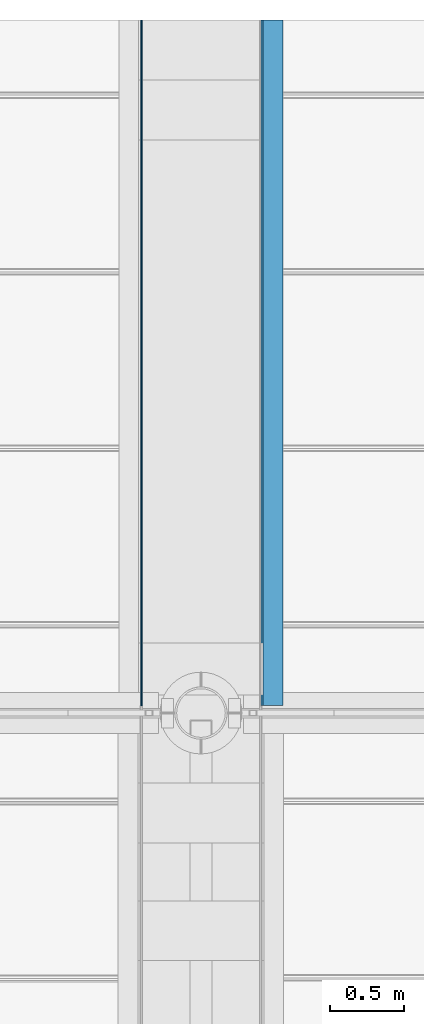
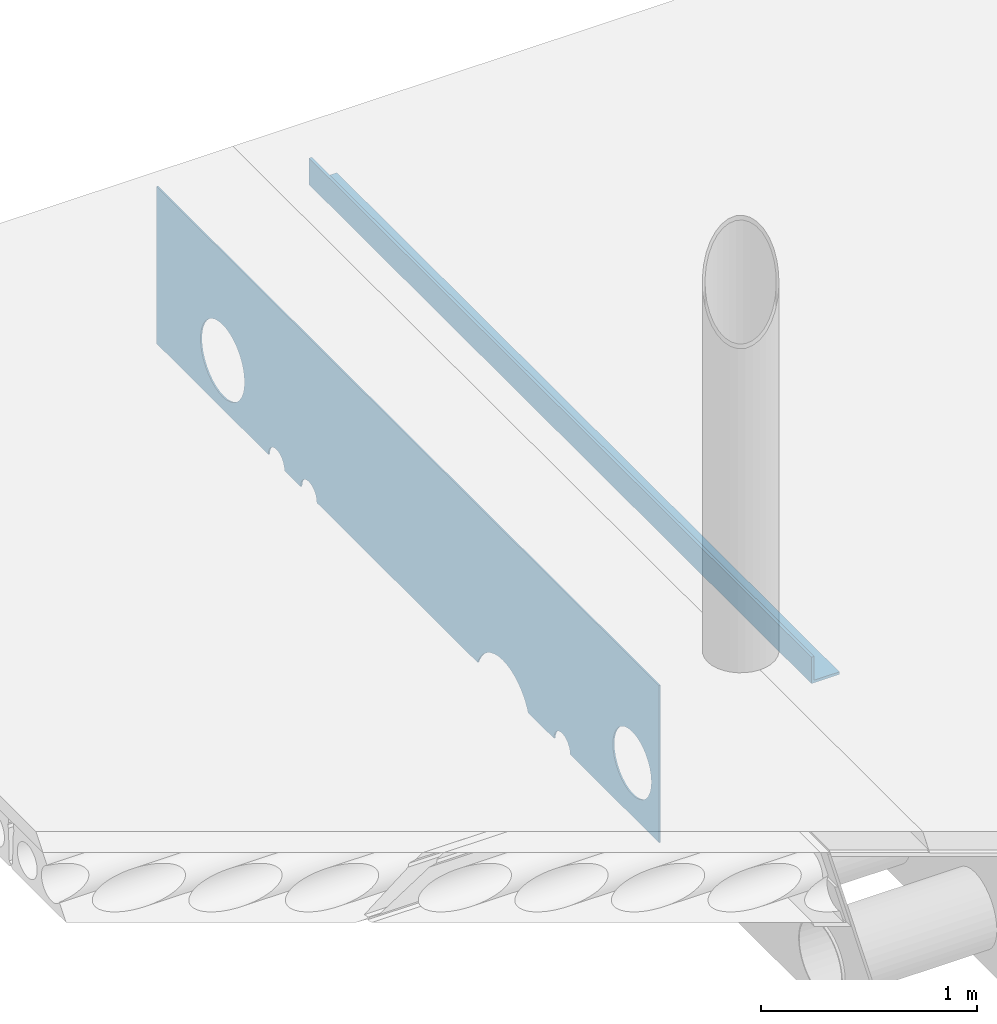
# One storey, part 9 of 21: 2 beams.
"""IFC2X3 building model written with IfcOpenShell, lengths in millimetres."""

from ifc_helpers import new_model, entity, si_unit, converted_unit, derived_unit, direction, frame, origin_with_axes, place, context, subcontext, project, spatial, faceted_brep, type_object, element, save


model = new_model("IFC2X3")

# Units and contexts
model_context = context("Model", 3, precision=0.01, world=frame((0.0, 4.29681676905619e-09, 0.0)), true_north=direction((4.01073788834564e-13, 1.0)))
plan_context = context("Plan", 3, precision=0.01, world=frame((0.0, 4.29681676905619e-09, 0.0)), true_north=direction((4.01073788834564e-13, 1.0)))
body_context = subcontext(model_context, "Body", "Model", "MODEL_VIEW")
ifc_project = project(units=[converted_unit("PLANEANGLEUNIT", "DEGREE", entity("IfcPositiveLengthMeasure", 0.0174532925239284), si_unit("PLANEANGLEUNIT", "RADIAN"), dimensions=[0, 0, 0, 0, 0, 0, 0]), si_unit("AREAUNIT", "SQUARE_METRE"), si_unit("LENGTHUNIT", "METRE", prefix="MILLI"), si_unit("MASSUNIT", "GRAM", prefix="KILO"), si_unit("POWERUNIT", "WATT"), si_unit("PRESSUREUNIT", "PASCAL", prefix="KILO"), si_unit("FORCEUNIT", "NEWTON", prefix="KILO"), si_unit("ELECTRICVOLTAGEUNIT", "VOLT"), si_unit("ELECTRICCURRENTUNIT", "AMPERE"), si_unit("THERMODYNAMICTEMPERATUREUNIT", "DEGREE_CELSIUS"), si_unit("TIMEUNIT", "SECOND"), si_unit("VOLUMEUNIT", "CUBIC_METRE"), derived_unit("LINEARVELOCITYUNIT", [(si_unit("LENGTHUNIT", "METRE"), 1), (si_unit("TIMEUNIT", "SECOND"), -1)]), derived_unit("VOLUMETRICFLOWRATEUNIT", [(si_unit("VOLUMEUNIT", "CUBIC_METRE"), 1), (si_unit("TIMEUNIT", "SECOND"), -1)]), derived_unit("THERMALTRANSMITTANCEUNIT", [(si_unit("POWERUNIT", "WATT"), 1), (si_unit("THERMODYNAMICTEMPERATUREUNIT", "KELVIN"), -1), (si_unit("AREAUNIT", "SQUARE_METRE"), -1)]), derived_unit("SOUNDPRESSUREUNIT", [(si_unit("PRESSUREUNIT", "PASCAL"), 1)])], contexts=[model_context, plan_context])

# Site, building, storey
site_placement = place(None, frame((0.0, -4.29681676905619e-09, 0.0), z_axis=(0.0, 0.0, 1.0), x_axis=(1.0, 0.0, 0.0)))
site = spatial("IfcSite", under=ifc_project, at=site_placement, Name="Gardermoen", CompositionType="ELEMENT")
building_placement = place(site_placement, frame((0.0, 4.29681676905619e-09, 0.0), z_axis=(0.0, 0.0, 1.0), x_axis=(1.0, 0.0, 0.0)))
building = spatial("IfcBuilding", under=site, at=building_placement, Name="TS", CompositionType="ELEMENT")
storey_placement = place(building_placement, origin_with_axes())
storey = spatial("IfcBuildingStorey", under=building, at=storey_placement, Name="F", CompositionType="ELEMENT", Elevation=0.0)

# Beams
beam_type_1 = type_object("IfcBeamType", Name="L150*15", PredefinedType="NOTDEFINED")
beam_1_placement = place(storey_placement, frame((718483.0, 441550.0, 210590.0), z_axis=(0.0, 0.0, 1.0), x_axis=(0.0, 1.0, 0.0)))
element("IfcBeam", 1, at=beam_1_placement, inside=storey, type_object=beam_type_1, Name="STÅLBJELKE", ObjectType="L150*15", context=body_context, shape_type="Brep", body=[
    faceted_brep([(4661.4244638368, 75.0, -75.0), (4661.4244638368, 75.0, 75.0), (2.6775524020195e-09, 75.0, 75.0), (2.6775524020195e-09, 75.0, -75.0), (4661.4244638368, 60.0, 75.0), (0.0, 60.0, 75.0), (4661.4244638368, 60.0, -59.9999999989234), (-3.02679836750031e-09, 60.0, -59.9999999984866), (4661.4244638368, -75.0, -60.0), (0.0, -75.0, -60.0), (4661.4244638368, -75.0000000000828, -75.0), (-2.79396772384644e-09, -75.0000000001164, -75.0)], [[[0, 1, 2, 3]], [[1, 4, 5, 2]], [[4, 6, 7, 5]], [[6, 8, 9, 7]], [[8, 10, 11, 9]], [[10, 0, 3, 11]], [[3, 2, 5, 7, 9, 11]], [[10, 8, 6, 4, 1, 0]]], orient=[[False], [False], [False], [False], [False], [False], [False], [False]]),
])
beam_type_2 = type_object("IfcBeamType", Name="1470*8", PredefinedType="NOTDEFINED")
beam_2_placement = place(storey_placement, frame((717596.0, 441550.0, 210055.0), z_axis=(0.0, 0.0, 1.0), x_axis=(0.0, 1.0, 0.0)))
element("IfcBeam", 2, at=beam_2_placement, inside=storey, type_object=beam_type_2, Name="STÅLBJELKE", ObjectType="1470*8", context=body_context, shape_type="Brep", body=[
    faceted_brep([(4661.4244638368, 4.0, 735.0), (4661.4244638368, -4.0, 735.0), (0.0, -4.0, 735.0), (0.0, 4.0, 735.0), (0.0, -4.0, -155.0), (0.0, 4.0, -155.0), (428.5, -4.0, 145.0), (428.5, 4.0, 145.0), (425.070172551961, 4.0, 179.823622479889), (425.070172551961, -4.0, 179.823622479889), (425.070172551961, -4.0, 110.176377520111), (425.070172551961, 4.0, 110.176377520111), (414.912496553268, -4.0, 76.6910073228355), (414.912496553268, 4.0, 76.6910073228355), (398.417325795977, -4.0, 45.8307134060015), (398.417325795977, 4.0, 45.8307134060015), (376.218560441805, -4.0, 18.7814395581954), (376.218560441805, 4.0, 18.7814395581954), (349.169286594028, -4.0, -3.41732579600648), (349.169286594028, 4.0, -3.41732579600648), (318.308992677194, -4.0, -19.9124965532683), (318.308992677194, 4.0, -19.9124965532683), (284.82362247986, -4.0, -30.0701725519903), (284.82362247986, 4.0, -30.0701725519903), (250.0, -4.0, -33.5), (250.0, 4.0, -33.5), (215.17637752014, -4.0, -30.0701725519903), (215.17637752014, 4.0, -30.0701725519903), (181.691007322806, -4.0, -19.9124965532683), (181.691007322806, 4.0, -19.9124965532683), (150.830713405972, -4.0, -3.41732579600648), (150.830713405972, 4.0, -3.41732579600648), (123.781439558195, -4.0, 18.7814395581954), (123.781439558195, 4.0, 18.7814395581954), (101.582674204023, -4.0, 45.8307134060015), (101.582674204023, 4.0, 45.8307134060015), (85.0875034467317, -4.0, 76.6910073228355), (85.0875034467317, 4.0, 76.6910073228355), (74.9298274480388, -4.0, 110.176377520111), (74.9298274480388, 4.0, 110.176377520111), (71.5, -4.0, 145.0), (71.5, 4.0, 145.0), (74.9298274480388, -4.0, 179.823622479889), (74.9298274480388, 4.0, 179.823622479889), (85.0875034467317, -4.0, 213.308992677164), (85.0875034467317, 4.0, 213.308992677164), (101.582674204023, -4.0, 244.169286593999), (101.582674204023, 4.0, 244.169286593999), (123.781439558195, -4.0, 271.218560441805), (123.781439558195, 4.0, 271.218560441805), (150.830713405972, -4.0, 293.417325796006), (150.830713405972, 4.0, 293.417325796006), (181.691007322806, -4.0, 309.912496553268), (181.691007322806, 4.0, 309.912496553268), (215.17637752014, -4.0, 320.07017255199), (215.17637752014, 4.0, 320.07017255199), (250.0, -4.0, 323.5), (250.0, 4.0, 323.5), (284.82362247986, -4.0, 320.07017255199), (284.82362247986, 4.0, 320.07017255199), (318.308992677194, -4.0, 309.912496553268), (318.308992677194, 4.0, 309.912496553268), (349.169286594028, -4.0, 293.417325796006), (349.169286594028, 4.0, 293.417325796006), (376.218560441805, -4.0, 271.218560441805), (376.218560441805, 4.0, 271.218560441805), (398.417325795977, -4.0, 244.169286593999), (398.417325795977, 4.0, 244.169286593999), (414.912496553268, -4.0, 213.308992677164), (414.912496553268, 4.0, 213.308992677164), (975.0, -4.0, -155.0), (975.0, 4.0, -155.0), (972.44443697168, 4.0, -135.588571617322), (972.44443697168, -4.0, -135.588571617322), (827.55556302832, -4.0, -135.588571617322), (827.55556302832, 4.0, -135.588571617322), (825.0, 4.0, -155.0), (825.0, -4.0, -155.0), (835.048094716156, -4.0, -117.5), (835.048094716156, 4.0, -117.5), (846.966991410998, -4.0, -101.966991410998), (846.966991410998, 4.0, -101.966991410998), (862.5, -4.0, -90.0480947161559), (862.5, 4.0, -90.0480947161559), (880.588571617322, -4.0, -82.5555630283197), (880.588571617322, 4.0, -82.5555630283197), (900.0, -4.0, -80.0), (900.0, 4.0, -80.0), (919.411428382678, -4.0, -82.5555630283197), (919.411428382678, 4.0, -82.5555630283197), (937.5, -4.0, -90.0480947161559), (937.5, 4.0, -90.0480947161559), (953.033008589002, -4.0, -101.966991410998), (953.033008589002, 4.0, -101.966991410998), (964.951905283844, -4.0, -117.5), (964.951905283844, 4.0, -117.5), (1216.26219191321, 4.0, -155.0), (1216.26219191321, -4.0, -155.0), (1222.79333633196, -4.0, -139.23242256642), (1222.79333633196, 4.0, -139.23242256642), (1243.70066643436, -4.0, -105.114760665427), (1243.70066643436, 4.0, -105.114760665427), (1269.68777079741, -4.0, -74.6877707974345), (1269.68777079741, 4.0, -74.6877707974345), (1300.1147606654, -4.0, -48.7006664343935), (1300.1147606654, 4.0, -48.7006664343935), (1334.23242256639, -4.0, -27.7933363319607), (1334.23242256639, 4.0, -27.7933363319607), (1371.20066643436, -4.0, -12.4805883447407), (1371.20066643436, 4.0, -12.4805883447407), (1410.10921141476, -4.0, -3.13947314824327), (1410.10921141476, 4.0, -3.13947314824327), (1450.0, -4.0, 0.0), (1450.0, 4.0, 0.0), (1489.89078858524, -4.0, -3.13947314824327), (1489.89078858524, 4.0, -3.13947314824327), (1528.79933356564, -4.0, -12.4805883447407), (1528.79933356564, 4.0, -12.4805883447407), (1565.76757743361, -4.0, -27.7933363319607), (1565.76757743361, 4.0, -27.7933363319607), (1599.8852393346, -4.0, -48.7006664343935), (1599.8852393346, 4.0, -48.7006664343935), (1630.31222920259, -4.0, -74.6877707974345), (1630.31222920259, 4.0, -74.6877707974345), (1656.29933356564, -4.0, -105.114760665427), (1656.29933356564, 4.0, -105.114760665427), (1677.20666366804, -4.0, -139.23242256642), (1677.20666366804, 4.0, -139.23242256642), (1683.73780808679, -4.0, -155.0), (1683.73780808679, 4.0, -155.0), (3325.0, -4.0, -155.0), (3325.0, 4.0, -155.0), (3322.44443697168, 4.0, -135.588571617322), (3322.44443697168, -4.0, -135.588571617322), (3177.55556302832, -4.0, -135.588571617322), (3177.55556302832, 4.0, -135.588571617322), (3175.0, 4.0, -155.0), (3175.0, -4.0, -155.0), (3185.04809471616, -4.0, -117.5), (3185.04809471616, 4.0, -117.5), (3196.966991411, -4.0, -101.966991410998), (3196.966991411, 4.0, -101.966991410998), (3212.5, -4.0, -90.0480947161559), (3212.5, 4.0, -90.0480947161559), (3230.58857161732, -4.0, -82.5555630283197), (3230.58857161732, 4.0, -82.5555630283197), (3250.0, -4.0, -80.0), (3250.0, 4.0, -80.0), (3269.41142838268, -4.0, -82.5555630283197), (3269.41142838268, 4.0, -82.5555630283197), (3287.5, -4.0, -90.0480947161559), (3287.5, 4.0, -90.0480947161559), (3303.033008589, -4.0, -101.966991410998), (3303.033008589, 4.0, -101.966991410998), (3314.95190528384, -4.0, -117.5), (3314.95190528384, 4.0, -117.5), (3625.0, -4.0, -155.0), (3625.0, 4.0, -155.0), (3622.44443697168, 4.0, -135.588571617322), (3622.44443697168, -4.0, -135.588571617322), (3477.55556302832, -4.0, -135.588571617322), (3477.55556302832, 4.0, -135.588571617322), (3475.0, 4.0, -155.0), (3475.0, -4.0, -155.0), (3485.04809471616, -4.0, -117.5), (3485.04809471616, 4.0, -117.5), (3496.966991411, -4.0, -101.966991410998), (3496.966991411, 4.0, -101.966991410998), (3512.5, -4.0, -90.0480947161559), (3512.5, 4.0, -90.0480947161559), (3530.58857161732, -4.0, -82.5555630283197), (3530.58857161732, 4.0, -82.5555630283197), (3550.0, -4.0, -80.0), (3550.0, 4.0, -80.0), (3569.41142838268, -4.0, -82.5555630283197), (3569.41142838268, 4.0, -82.5555630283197), (3587.5, -4.0, -90.0480947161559), (3587.5, 4.0, -90.0480947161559), (3603.033008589, -4.0, -101.966991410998), (3603.033008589, 4.0, -101.966991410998), (3614.95190528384, -4.0, -117.5), (3614.95190528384, 4.0, -117.5), (4254.0, -4.0, 120.0), (4254.0, 4.0, 120.0), (4250.90078161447, 4.0, 155.424228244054), (4250.90078161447, -4.0, 155.424228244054), (4250.90078161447, -4.0, 84.5757717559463), (4250.90078161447, 4.0, 84.5757717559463), (4241.69729464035, -4.0, 50.2278907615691), (4241.69729464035, 4.0, 50.2278907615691), (4226.66918237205, -4.0, 18.0), (4226.66918237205, 4.0, 18.0), (4206.27306639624, -4.0, -11.1286723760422), (4206.27306639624, 4.0, -11.1286723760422), (4181.12867237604, -4.0, -36.273066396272), (4181.12867237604, 4.0, -36.273066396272), (4152.0, -4.0, -56.6691823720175), (4152.0, 4.0, -56.6691823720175), (4119.77210923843, -4.0, -71.6972946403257), (4119.77210923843, 4.0, -71.6972946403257), (4085.42422824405, -4.0, -80.9007816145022), (4085.42422824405, 4.0, -80.9007816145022), (4050.0, -4.0, -84.0), (4050.0, 4.0, -84.0), (4014.57577175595, -4.0, -80.9007816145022), (4014.57577175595, 4.0, -80.9007816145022), (3980.22789076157, -4.0, -71.6972946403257), (3980.22789076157, 4.0, -71.6972946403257), (3948.0, -4.0, -56.6691823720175), (3948.0, 4.0, -56.6691823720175), (3918.87132762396, -4.0, -36.273066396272), (3918.87132762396, 4.0, -36.273066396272), (3893.72693360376, -4.0, -11.1286723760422), (3893.72693360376, 4.0, -11.1286723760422), (3873.33081762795, -4.0, 18.0), (3873.33081762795, 4.0, 18.0), (3858.3027053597, -4.0, 50.2278907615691), (3858.3027053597, 4.0, 50.2278907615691), (3849.09921838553, -4.0, 84.5757717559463), (3849.09921838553, 4.0, 84.5757717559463), (3846.0, -4.0, 120.0), (3846.0, 4.0, 120.0), (3849.09921838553, -4.0, 155.424228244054), (3849.09921838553, 4.0, 155.424228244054), (3858.3027053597, -4.0, 189.772109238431), (3858.3027053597, 4.0, 189.772109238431), (3873.33081762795, -4.0, 222.0), (3873.33081762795, 4.0, 222.0), (3893.72693360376, -4.0, 251.128672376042), (3893.72693360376, 4.0, 251.128672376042), (3918.87132762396, -4.0, 276.273066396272), (3918.87132762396, 4.0, 276.273066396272), (3948.0, -4.0, 296.669182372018), (3948.0, 4.0, 296.669182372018), (3980.22789076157, -4.0, 311.697294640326), (3980.22789076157, 4.0, 311.697294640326), (4014.57577175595, -4.0, 320.900781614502), (4014.57577175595, 4.0, 320.900781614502), (4050.0, -4.0, 324.0), (4050.0, 4.0, 324.0), (4085.42422824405, -4.0, 320.900781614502), (4085.42422824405, 4.0, 320.900781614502), (4119.77210923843, -4.0, 311.697294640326), (4119.77210923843, 4.0, 311.697294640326), (4152.0, -4.0, 296.669182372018), (4152.0, 4.0, 296.669182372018), (4181.12867237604, -4.0, 276.273066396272), (4181.12867237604, 4.0, 276.273066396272), (4206.27306639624, -4.0, 251.128672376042), (4206.27306639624, 4.0, 251.128672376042), (4226.66918237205, -4.0, 222.0), (4226.66918237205, 4.0, 222.0), (4241.69729464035, -4.0, 189.772109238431), (4241.69729464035, 4.0, 189.772109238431), (4661.4244638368, -4.0, -155.0), (4661.4244638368, 4.0, -155.0)], [[[0, 1, 2, 3]], [[4, 5, 3, 2]], [[6, 7, 8, 9]], [[10, 11, 7, 6]], [[12, 13, 11, 10]], [[14, 15, 13, 12]], [[16, 17, 15, 14]], [[18, 19, 17, 16]], [[20, 21, 19, 18]], [[22, 23, 21, 20]], [[24, 25, 23, 22]], [[26, 27, 25, 24]], [[28, 29, 27, 26]], [[30, 31, 29, 28]], [[32, 33, 31, 30]], [[34, 35, 33, 32]], [[36, 37, 35, 34]], [[38, 39, 37, 36]], [[40, 41, 39, 38]], [[42, 43, 41, 40]], [[44, 45, 43, 42]], [[46, 47, 45, 44]], [[48, 49, 47, 46]], [[50, 51, 49, 48]], [[52, 53, 51, 50]], [[54, 55, 53, 52]], [[56, 57, 55, 54]], [[58, 59, 57, 56]], [[60, 61, 59, 58]], [[62, 63, 61, 60]], [[64, 65, 63, 62]], [[66, 67, 65, 64]], [[68, 69, 67, 66]], [[9, 8, 69, 68]], [[70, 71, 72, 73]], [[74, 75, 76, 77]], [[78, 79, 75, 74]], [[80, 81, 79, 78]], [[82, 83, 81, 80]], [[84, 85, 83, 82]], [[86, 87, 85, 84]], [[88, 89, 87, 86]], [[90, 91, 89, 88]], [[92, 93, 91, 90]], [[94, 95, 93, 92]], [[73, 72, 95, 94]], [[96, 97, 98, 99]], [[100, 101, 99, 98]], [[102, 103, 101, 100]], [[104, 105, 103, 102]], [[106, 107, 105, 104]], [[108, 109, 107, 106]], [[110, 111, 109, 108]], [[112, 113, 111, 110]], [[114, 115, 113, 112]], [[116, 117, 115, 114]], [[118, 119, 117, 116]], [[120, 121, 119, 118]], [[122, 123, 121, 120]], [[124, 125, 123, 122]], [[126, 127, 125, 124]], [[128, 129, 127, 126]], [[130, 131, 132, 133]], [[134, 135, 136, 137]], [[138, 139, 135, 134]], [[140, 141, 139, 138]], [[142, 143, 141, 140]], [[144, 145, 143, 142]], [[146, 147, 145, 144]], [[148, 149, 147, 146]], [[150, 151, 149, 148]], [[152, 153, 151, 150]], [[154, 155, 153, 152]], [[133, 132, 155, 154]], [[156, 157, 158, 159]], [[160, 161, 162, 163]], [[164, 165, 161, 160]], [[166, 167, 165, 164]], [[168, 169, 167, 166]], [[170, 171, 169, 168]], [[172, 173, 171, 170]], [[174, 175, 173, 172]], [[176, 177, 175, 174]], [[178, 179, 177, 176]], [[180, 181, 179, 178]], [[159, 158, 181, 180]], [[182, 183, 184, 185]], [[186, 187, 183, 182]], [[188, 189, 187, 186]], [[190, 191, 189, 188]], [[192, 193, 191, 190]], [[194, 195, 193, 192]], [[196, 197, 195, 194]], [[198, 199, 197, 196]], [[200, 201, 199, 198]], [[202, 203, 201, 200]], [[204, 205, 203, 202]], [[206, 207, 205, 204]], [[208, 209, 207, 206]], [[210, 211, 209, 208]], [[212, 213, 211, 210]], [[214, 215, 213, 212]], [[216, 217, 215, 214]], [[218, 219, 217, 216]], [[220, 221, 219, 218]], [[222, 223, 221, 220]], [[224, 225, 223, 222]], [[226, 227, 225, 224]], [[228, 229, 227, 226]], [[230, 231, 229, 228]], [[232, 233, 231, 230]], [[234, 235, 233, 232]], [[236, 237, 235, 234]], [[238, 239, 237, 236]], [[240, 241, 239, 238]], [[242, 243, 241, 240]], [[244, 245, 243, 242]], [[246, 247, 245, 244]], [[248, 249, 247, 246]], [[250, 251, 249, 248]], [[252, 253, 251, 250]], [[185, 184, 253, 252]], [[1, 254, 156, 159, 180, 178, 176, 174, 172, 170, 168, 166, 164, 160, 163, 130, 133, 154, 152, 150, 148, 146, 144, 142, 140, 138, 134, 137, 128, 126, 124, 122, 120, 118, 116, 114, 112, 110, 108, 106, 104, 102, 100, 98, 97, 70, 73, 94, 92, 90, 88, 86, 84, 82, 80, 78, 74, 77, 4, 2], [186, 182, 185, 252, 250, 248, 246, 244, 242, 240, 238, 236, 234, 232, 230, 228, 226, 224, 222, 220, 218, 216, 214, 212, 210, 208, 206, 204, 202, 200, 198, 196, 194, 192, 190, 188], [10, 6, 9, 68, 66, 64, 62, 60, 58, 56, 54, 52, 50, 48, 46, 44, 42, 40, 38, 36, 34, 32, 30, 28, 26, 24, 22, 20, 18, 16, 14, 12]], [[5, 76, 75, 79, 81, 83, 85, 87, 89, 91, 93, 95, 72, 71, 96, 99, 101, 103, 105, 107, 109, 111, 113, 115, 117, 119, 121, 123, 125, 127, 129, 136, 135, 139, 141, 143, 145, 147, 149, 151, 153, 155, 132, 131, 162, 161, 165, 167, 169, 171, 173, 175, 177, 179, 181, 158, 157, 255, 0, 3], [184, 183, 187, 189, 191, 193, 195, 197, 199, 201, 203, 205, 207, 209, 211, 213, 215, 217, 219, 221, 223, 225, 227, 229, 231, 233, 235, 237, 239, 241, 243, 245, 247, 249, 251, 253], [8, 7, 11, 13, 15, 17, 19, 21, 23, 25, 27, 29, 31, 33, 35, 37, 39, 41, 43, 45, 47, 49, 51, 53, 55, 57, 59, 61, 63, 65, 67, 69]], [[254, 1, 0, 255]], [[255, 157, 156, 254]], [[77, 76, 5, 4]], [[97, 96, 71, 70]], [[137, 136, 129, 128]], [[163, 162, 131, 130]]], orient=[[False], [False], [False], [False], [False], [False], [False], [False], [False], [False], [False], [False], [False], [False], [False], [False], [False], [False], [False], [False], [False], [False], [False], [False], [False], [False], [False], [False], [False], [False], [False], [False], [False], [False], [False], [False], [False], [False], [False], [False], [False], [False], [False], [False], [False], [False], [False], [False], [False], [False], [False], [False], [False], [False], [False], [False], [False], [False], [False], [False], [False], [False], [False], [False], [False], [False], [False], [False], [False], [False], [False], [False], [False], [False], [False], [False], [False], [False], [False], [False], [False], [False], [False], [False], [False], [False], [False], [False], [False], [False], [False], [False], [False], [False], [False], [False], [False], [False], [False], [False], [False], [False], [False], [False], [False], [False], [False], [False], [False], [False], [False], [False], [False], [False], [False], [False], [False], [False], [False], [False], [False], [False], [False, False, False], [False, False, False], [False], [False], [False], [False], [False], [False]]),
])

save(model, "model.ifc")
